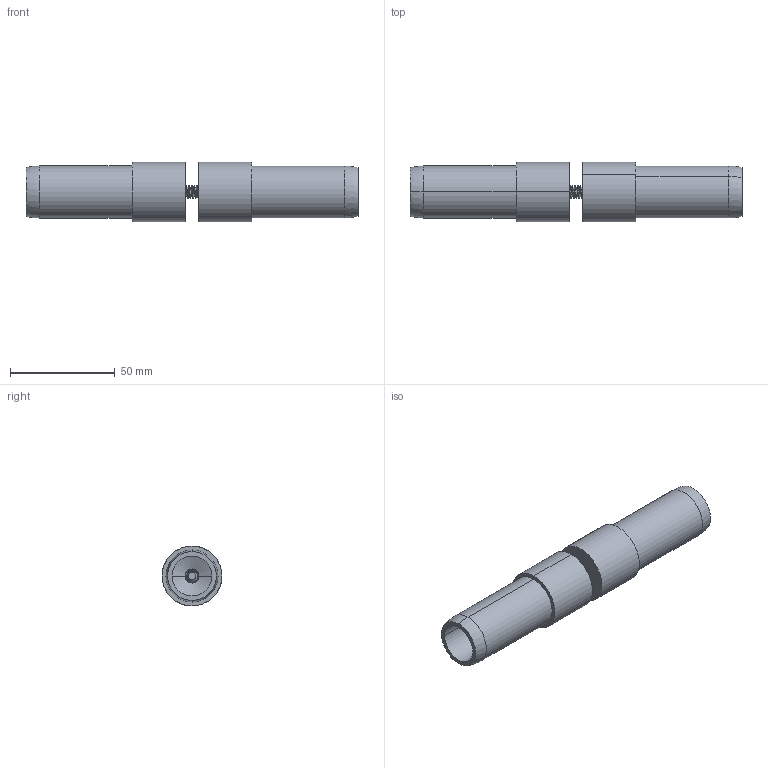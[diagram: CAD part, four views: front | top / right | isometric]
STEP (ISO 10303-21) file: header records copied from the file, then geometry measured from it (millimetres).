
FILE_DESCRIPTION (( 'STEP AP214' ), '1' );
FILE_NAME ('1 Inch Coupler Joint Kit.STEP', '2014-01-10T16:39:57', ( 'ydmin' ), ( 'Microsoft' ), 'SwSTEP 2.0', 'SolidWorks 2013', '' );
FILE_SCHEMA (( 'AUTOMOTIVE_DESIGN' ));
Length unit declared in the file: inch
Products named in the file (1): 1 Inch Coupler Joint Kit
Bounding box: 158.75 x 28.57 x 28.57 mm (x, y, z)
Volume: 51000.7 mm3; surface area: 24842.4 mm2
Topology: 5 solids, 5 shells, 139 faces, 353 edges, 225 vertices
Faces by surface type: cylinder 74, plane 24, bspline 19, cone 18, torus 4
Entity records: 17462 total; most frequent: CARTESIAN_POINT 12685, ORIENTED_EDGE 702, DIRECTION 502, EDGE_CURVE 351, VERTEX_POINT 225, AXIS2_PLACEMENT_3D 184, LENGTH_MEASURE_WITH_UNIT 146, UNCERTAINTY_MEASURE_WITH_UNIT 146
